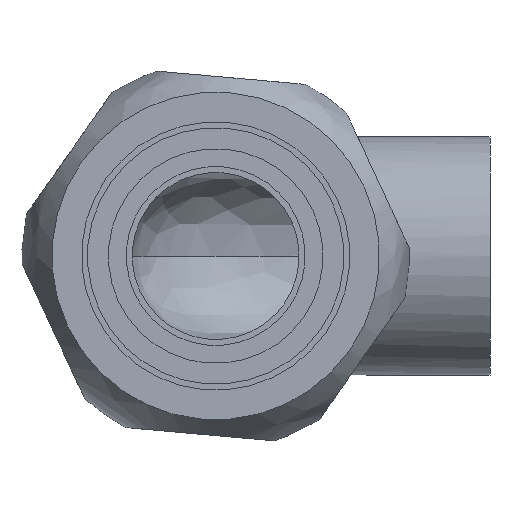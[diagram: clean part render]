
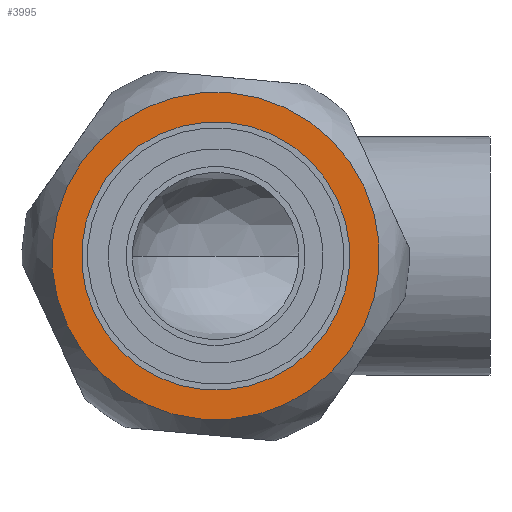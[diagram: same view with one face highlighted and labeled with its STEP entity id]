
A CAD part, front view. The second image highlights one B-rep face of the part: STEP entity #3995.
In plain terms, the highlighted planar face has unit normal (0, -1, 0) as drawn and (-1, 0, 0) by its records, which use the part's own axes.
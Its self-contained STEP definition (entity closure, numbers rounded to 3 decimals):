
#3892=CARTESIAN_POINT('',(0.0,13.735,0.0));
#3893=VERTEX_POINT('',#3892);
#3894=CARTESIAN_POINT('',(0.0,0.0,0.0));
#3895=DIRECTION('',(1.0,0.0,0.0));
#3896=DIRECTION('',(0.0,1.0,0.0));
#3897=AXIS2_PLACEMENT_3D('',#3894,#3895,#3896);
#3898=CIRCLE('',#3897,13.735);
#3899=EDGE_CURVE('',#3893,#3893,#3898,.T.);
#3969=CARTESIAN_POINT('',(0.0,11.25,0.0));
#3970=VERTEX_POINT('',#3969);
#3971=CARTESIAN_POINT('',(0.0,0.0,0.0));
#3972=DIRECTION('',(1.0,0.0,0.0));
#3973=DIRECTION('',(0.0,1.0,0.0));
#3974=AXIS2_PLACEMENT_3D('',#3971,#3972,#3973);
#3975=CIRCLE('',#3974,11.25);
#3976=EDGE_CURVE('',#3970,#3970,#3975,.T.);
#3984=CARTESIAN_POINT('',(0.0,12.493,0.0));
#3985=DIRECTION('',(-1.0,0.0,0.0));
#3986=DIRECTION('',(0.0,0.0,1.0));
#3987=AXIS2_PLACEMENT_3D('',#3984,#3985,#3986);
#3988=PLANE('',#3987);
#3989=ORIENTED_EDGE('',*,*,#3899,.F.);
#3990=EDGE_LOOP('',(#3989));
#3991=FACE_OUTER_BOUND('',#3990,.T.);
#3992=ORIENTED_EDGE('',*,*,#3976,.T.);
#3993=EDGE_LOOP('',(#3992));
#3994=FACE_BOUND('',#3993,.T.);
#3995=ADVANCED_FACE('',(#3991,#3994),#3988,.T.);
